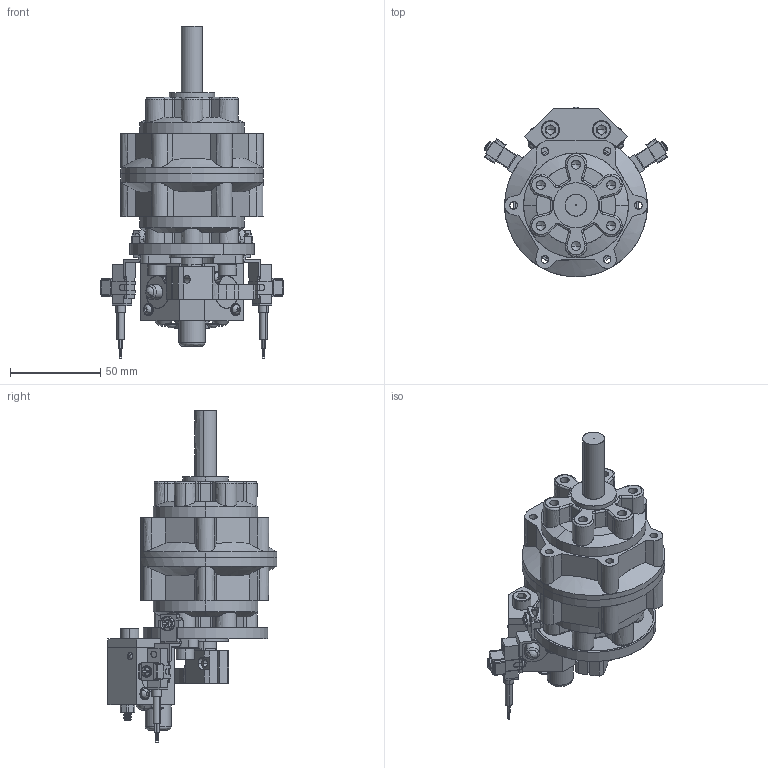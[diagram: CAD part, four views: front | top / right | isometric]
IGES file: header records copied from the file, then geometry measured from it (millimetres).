
Start section: SolidWorks IGES file using analytic representation for surfaces
Global section: file name: C:\Users\Chieh_Lu\Dropbox\¤u§@«Ç\PRN50-150-300-800\PRN50\PRN50\PRN50#-#-#-#-FC.IGS; native system: SolidWorks 2014; preprocessor: SolidWorks 2014; author: Chieh_Lu; date: 160115.004024; units: millimetre
Bounding box: 101.32 x 94 x 183.7 mm (x, y, z)
Surface area: 101269.8 mm2 (no closed solid volume)
Topology: 0 solids, 0 shells, 1370 faces, 16492 edges, 16431 vertices
Faces by surface type: bspline 766, revolution 604
